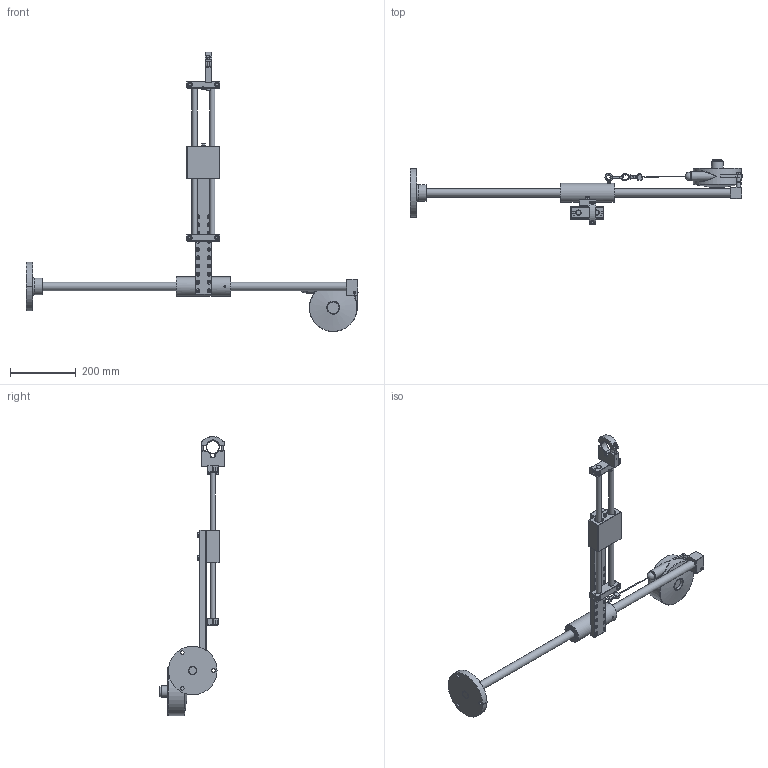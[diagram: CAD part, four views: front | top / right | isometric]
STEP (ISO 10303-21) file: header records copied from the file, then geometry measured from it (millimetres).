
FILE_DESCRIPTION( ( 'Unknown' ), '1' );
FILE_NAME( 'D:/dogabe/Industrie/Industrie 2003/03-06-2472 BA100/4-1200068_bras BA 100_3D/4-1200068_bras BA 100.stp', 'Unknown', ( 'Unknown' ), ( 'Unknown' ), 'PSStep 14.0', 'Unknown', ' ' );
FILE_SCHEMA( ( 'AUTOMOTIVE_DESIGN { 1 0 10303 214 1 1 1 1 }' ) );
Length unit declared in the file: millimetre
Products named in the file (52): Asm boite à douilles pour  BA100; Douille KB16; Douille KB16-oa5; Douille KB16-oa6; Douille KB16-oa7; boite à douilles pour BA100; Mat BA100; Vis HC M8x12 à bout plat; Pied BA100; Axe mat BA100; Pince BA100; CHC M6x45 fileté sous tete; CHC M6x45 fileté sous tete-oa13; Collier BA100; Placement pince BA100; Asm coulisses BA100; axe 16 lg BA100; axe 16 lg BA100-oa8; Aimant NE110; Bride avant BA100; CHC M8x20; CHC M8x20-oa9; CHC M8x20-oa10; CHC M8x20-oa11; Vis HC M3x10; CHC M8x30; CHC M8x30-oa12; Bride arrière BA100; Asm Equilibreur BA100 ; Equilibreur 6 - 8Kg; CHC M8x50; Support equilibreur; Entretoise; Entretoise-oa0; Vis HC M4x8 à téton; Bague; Arrière bras BA100; Fourreau BA100; Douille KB25; Douille KB25-oa1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
Assembly tree (52 placements, depth 4):
  Assem1
    Cable
    Mat BA100
      Vis HC M8x12 à bout plat
      Pied BA100
      Axe mat BA100
    Asm Equilibreur BA100 
      Equilibreur 6 - 8Kg
      CHC M8x50
      Support equilibreur
      Entretoise
      Entretoise-oa0
      Vis HC M4x8 à téton
      Bague
    Arrière bras BA100
      Fourreau BA100
      Douille KB25
      Douille KB25-oa1
      Piton M6
      Plaque support BA100
      FHC M6x25
      FHC M6x25-oa2
      FHC M6x25-oa3
      FHC M6x25-oa4
      CHC M8x35  x2
      06 Z
      CHC M6x10
      Asm boite à douilles pour  BA100
        Douille KB16
        Douille KB16-oa5
        Douille KB16-oa6
        Douille KB16-oa7
        boite à douilles pour BA100
    Asm coulisses BA100
      axe 16 lg BA100
      axe 16 lg BA100-oa8
      Aimant NE110
      Bride avant BA100
      CHC M8x20
      CHC M8x20-oa9
      CHC M8x20-oa10
      CHC M8x20-oa11
      Vis HC M3x10
      CHC M8x30
      CHC M8x30-oa12
      Bride arrière BA100
    Pince BA100
      CHC M6x45 fileté sous tete
      CHC M6x45 fileté sous tete-oa13
      Collier BA100
      Pince BA100
      Placement pince BA100
Bounding box: 1008.76 x 196.5 x 848.59 mm (x, y, z)
Volume: 3369416.2 mm3; surface area: 571875.5 mm2
Topology: 46 solids, 46 shells, 988 faces, 2205 edges, 1392 vertices
Faces by surface type: plane 564, cylinder 263, cone 109, torus 36, sphere 9, bspline 7
Full cylindrical faces by diameter (mm): 2 x1, 2.5 x4, 3 x1, 3.3 x1, 4 x1, 5 x10, 5.8 x7, 6 x29, 6.5 x2, 6.8 x11, 7 x2, 7.8 x9, 8 x16, 8.5 x4, 9 x2, 10 x4, 10.1 x1, 10.5 x3, 12 x1, 13 x11, 14 x4, 16 x6, 24.9 x8, 25 x5, 26 x23, 27.2 x8, 28 x2, 28.5 x1, 30 x1, 35 x2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
Entity records: 34644 total; most frequent: CARTESIAN_POINT 6251, DIRECTION 4319, ORIENTED_EDGE 3350, AXIS2_PLACEMENT_3D 1677, EDGE_CURVE 1675, EDGE_LOOP 1509, VERTEX_POINT 1209, FACE_OUTER_BOUND 1171
